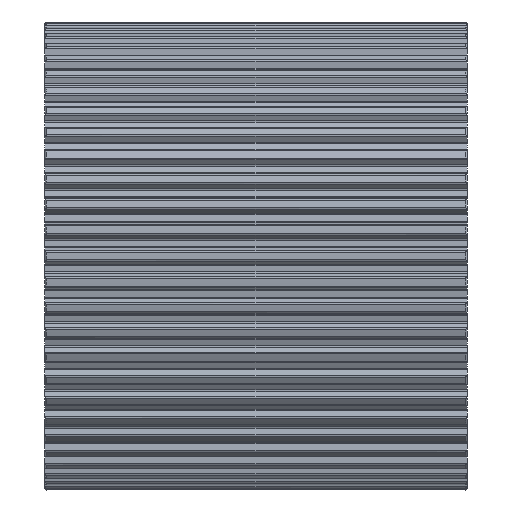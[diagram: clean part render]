
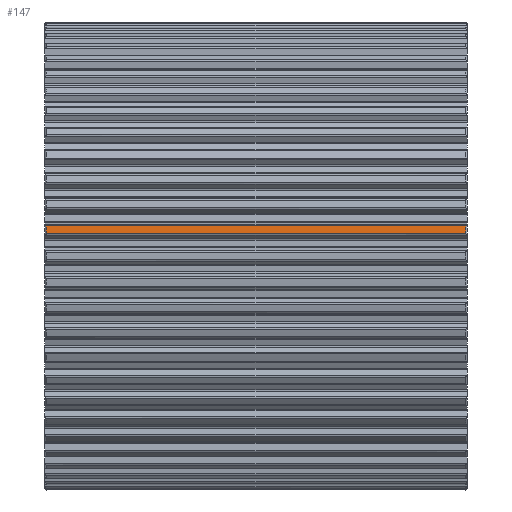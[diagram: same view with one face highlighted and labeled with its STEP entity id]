
A CAD part, front view. The second image highlights one B-rep face of the part: STEP entity #147.
In plain terms, the highlighted cylindrical face has radius 88.625 mm (diameter 177.25 mm), a partial arc.
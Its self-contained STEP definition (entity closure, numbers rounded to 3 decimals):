
#147=ADVANCED_FACE('',(#798),#799,.T.);
#798=FACE_OUTER_BOUND('',#1956,.T.);
#799=CYLINDRICAL_SURFACE('',#1957,88.625);
#1956=EDGE_LOOP('',(#3584,#3585,#3586,#3587));
#1957=AXIS2_PLACEMENT_3D('',#3588,#3589,#3590);
#3584=ORIENTED_EDGE('',*,*,#8511,.T.);
#3585=ORIENTED_EDGE('',*,*,#8512,.T.);
#3586=ORIENTED_EDGE('',*,*,#8513,.T.);
#3587=ORIENTED_EDGE('',*,*,#8514,.T.);
#3588=CARTESIAN_POINT('',(80.0,0.0,0.0));
#3589=DIRECTION('',(1.0,0.0,-0.0));
#3590=DIRECTION('',(0.0,0.112,0.994));
#8511=EDGE_CURVE('',#10580,#10589,#10591,.T.);
#8512=EDGE_CURVE('',#10589,#10592,#10593,.T.);
#8513=EDGE_CURVE('',#10592,#10594,#10595,.T.);
#8514=EDGE_CURVE('',#10594,#10580,#10596,.T.);
#10580=VERTEX_POINT('',#15470);
#10589=VERTEX_POINT('',#15506);
#10591=CIRCLE('',#15517,88.625);
#10592=VERTEX_POINT('',#15518);
#10593=LINE('',#15519,#15520);
#10594=VERTEX_POINT('',#15521);
#10595=CIRCLE('',#15522,88.625);
#10596=LINE('',#15523,#15524);
#15470=CARTESIAN_POINT('',(0.5,-87.89,11.394));
#15506=CARTESIAN_POINT('',(0.5,-88.221,8.449));
#15517=AXIS2_PLACEMENT_3D('',#20697,#20698,#20699);
#15518=CARTESIAN_POINT('',(159.5,-88.221,8.449));
#15519=CARTESIAN_POINT('',(80.0,-88.221,8.449));
#15520=VECTOR('',#20700,1.0);
#15521=CARTESIAN_POINT('',(159.5,-87.89,11.394));
#15522=AXIS2_PLACEMENT_3D('',#20701,#20702,#20703);
#15523=CARTESIAN_POINT('',(80.0,-87.89,11.394));
#15524=VECTOR('',#20704,1.0);
#20697=CARTESIAN_POINT('',(0.5,0.0,0.0));
#20698=DIRECTION('',(1.0,0.0,0.));
#20699=DIRECTION('',(0.,0.112,0.994));
#20700=DIRECTION('',(1.0,0.0,0.0));
#20701=CARTESIAN_POINT('',(159.5,0.0,0.0));
#20702=DIRECTION('',(-1.0,0.0,0.0));
#20703=DIRECTION('',(0.0,0.112,0.994));
#20704=DIRECTION('',(-1.0,0.0,0.0));
